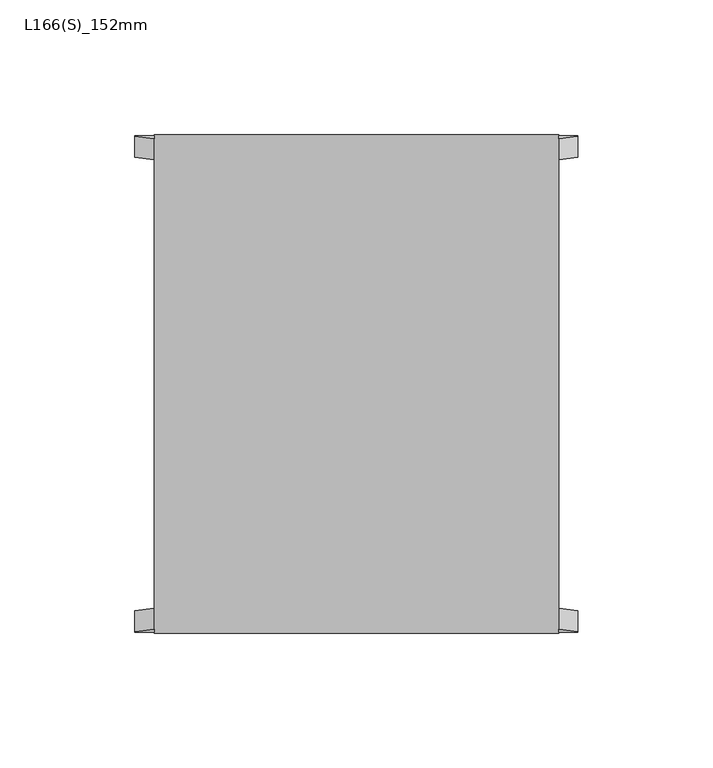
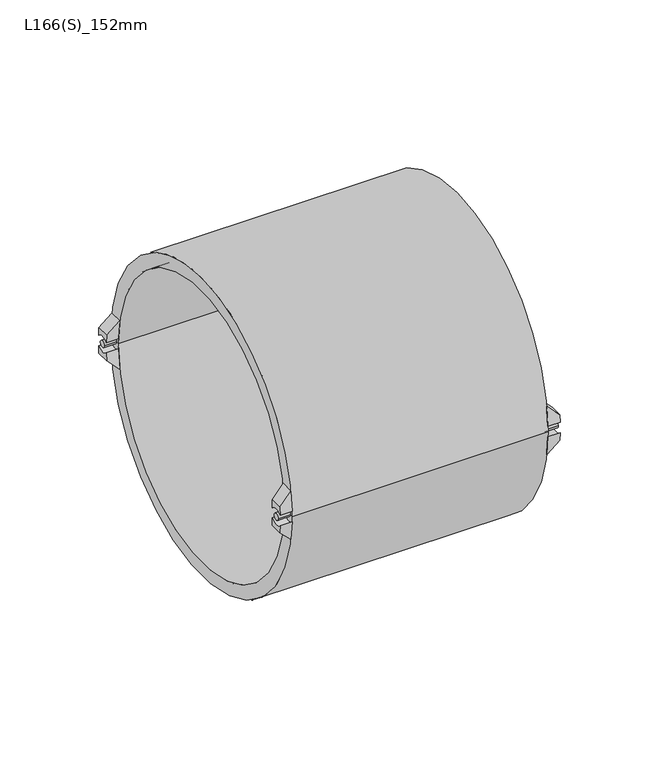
"""IFC4 building model written with IfcOpenShell, lengths in millimetres: pipe fitting geometry, Durapipe_PipeFitting_VulcatheneEnfusion_SlipCoupling_L16S : L166(S)_152mm."""

from ifc_helpers import new_model, si_unit, point, frame, frame_2d, origin, place, context, project, spatial, polyline, circle_curve, ellipse_curve, trimmed, segment, composite_curve, outline, extrude, source, transform, mapped, element, save
from ifc_brep_helpers import plane_surface, cylinder_surface, revolved_surface, advanced_brep


def l166_s_152mm_c7d2f9af(model_context):
    return source(origin(), model_context, "Body", "SolidModel", [
        advanced_brep(
        [(-82.1, -84.3923698, 3.1193631), (-82.1, -92.0923698, 3.2585168), (-82.1, -91.8072922, 7.94), (-82.1, -84.0759115, 7.94), (-75.0, -90.9209684, 15.0), (-75.0, -92.0923698, 3.2585168), (-75.0, -84.3923698, 3.1193631), (-75.0, -83.1071748, 15.0)],
        [
            (0, 1, circle_curve(frame((-82.1, -88.3, 0.0), z_axis=(1.0, 0.0, 0.0), x_axis=(0.0, 1.0, 0.0)), 5.0)),
            (1, 2, circle_curve(frame((-82.1, 0.0, 0.0), z_axis=(-1.0, 0.0, 0.0), x_axis=(0.0, 1.0, 0.0)), 92.15)),
            (2, 3),
            (3, 0, circle_curve(frame((-82.1, 0.0, 0.0), z_axis=(1.0, 0.0, 0.0), x_axis=(0.0, 1.0, 0.0)), 84.45)),
            (4, 5, circle_curve(frame((-75.0, 0.0, 0.0), z_axis=(1.0, 0.0, 0.0), x_axis=(0.0, 1.0, 0.0)), 92.15)),
            (5, 6, circle_curve(frame((-75.0, -88.3, 0.0), z_axis=(-1.0, 0.0, 0.0), x_axis=(0.0, 1.0, 0.0)), 5.0)),
            (6, 7, circle_curve(frame((-75.0, 0.0, 0.0), z_axis=(-1.0, 0.0, 0.0), x_axis=(0.0, 1.0, 0.0)), 84.45)),
            (7, 4),
            (6, 0),
            (3, 7, ellipse_curve(frame((-90.0849858, 0.0, 0.0), z_axis=(-0.7051064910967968, 0.0, 0.7091014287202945), x_axis=(0.7091014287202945, 0.0, 0.7051064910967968)), 119.7691428, 84.45)),
            (4, 2, ellipse_curve(frame((-90.0849858, 0.0, 0.0), z_axis=(0.7051064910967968, 0.0, -0.7091014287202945), x_axis=(-0.7091014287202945, 0.0, -0.7051064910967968)), 130.6894791, 92.15)),
            (1, 5),
        ],
        [
            plane_surface(frame((-82.1, -90.9209684, 15.0), z_axis=(-1.0, 0.0, 0.0), x_axis=(0.0, 1.0, 0.0))),
            plane_surface(frame((-75.0, -90.9209684, 15.0), z_axis=(1.0, 0.0, 0.0), x_axis=(0.0, -1.0, 0.0))),
            revolved_surface(polyline([(-5.156515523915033, 84.45, 0.0), (-175.01345607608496, 84.45, 0.0)]), (-75.0, 0.0, 0.0), (1.0, 0.0, 0.0)),
            cylinder_surface(frame((-75.0, 0.0, 0.0), z_axis=(-1.0, 0.0, 0.0), x_axis=(0.0, 1.0, 0.0)), 92.15),
            revolved_surface(polyline([(-82.1, -83.3, 0.0), (-75.0, -83.3, 0.0)]), (-75.0, -88.3, 0.0), (-1.0, 0.0, 0.0)),
            plane_surface(frame((-75.0, 92.15, 15.0), z_axis=(-0.7051064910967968, 0.0, 0.7091014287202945), x_axis=(0.0, -1.0, 0.0))),
        ],
        [
            (0, [[1, 2, 3, 4]]),
            (1, [[5, 6, 7, 8]]),
            (2, [[-7, 9, -4, 10]]),
            (3, [[-5, 11, -2, 12]]),
            (4, [[-1, -9, -6, -12]]),
            (5, [[-3, -11, -8, -10]]),
        ],
    ),
        advanced_brep(
        [(-82.1, -92.0923698, -3.2585168), (-82.1, -84.3923698, -3.1193631), (-82.1, -84.0759115, -7.94), (-82.1, -91.8072922, -7.94), (-75.0, -92.0923698, -3.2585168), (-75.0, -90.9209684, -15.0), (-75.0, -83.1071748, -15.0), (-75.0, -84.3923698, -3.1193631)],
        [
            (0, 1, circle_curve(frame((-82.1, -88.3, 0.0), z_axis=(1.0, 0.0, 0.0), x_axis=(0.0, 1.0, 0.0)), 5.0)),
            (1, 2, circle_curve(frame((-82.1, 0.0, 0.0), z_axis=(1.0, 0.0, 0.0), x_axis=(0.0, 1.0, 0.0)), 84.45)),
            (2, 3),
            (3, 0, circle_curve(frame((-82.1, 0.0, 0.0), z_axis=(-1.0, 0.0, 0.0), x_axis=(0.0, 1.0, 0.0)), 92.15)),
            (4, 5, circle_curve(frame((-75.0, 0.0, 0.0), z_axis=(1.0, 0.0, 0.0), x_axis=(0.0, 1.0, 0.0)), 92.15)),
            (5, 6),
            (6, 7, circle_curve(frame((-75.0, 0.0, 0.0), z_axis=(-1.0, 0.0, 0.0), x_axis=(0.0, 1.0, 0.0)), 84.45)),
            (7, 4, circle_curve(frame((-75.0, -88.3, 0.0), z_axis=(-1.0, 0.0, 0.0), x_axis=(0.0, 1.0, 0.0)), 5.0)),
            (6, 2, ellipse_curve(frame((-90.0849858, 0.0, 0.0), z_axis=(-0.7051064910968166, 0.0, -0.7091014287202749), x_axis=(0.7091014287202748, 0.0, -0.7051064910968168)), 119.7691428, 84.45)),
            (1, 7),
            (4, 0),
            (3, 5, ellipse_curve(frame((-90.0849858, 0.0, 0.0), z_axis=(0.7051064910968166, 0.0, 0.7091014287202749), x_axis=(-0.7091014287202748, 0.0, 0.7051064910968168)), 130.6894791, 92.15)),
        ],
        [
            plane_surface(frame((-82.1, -90.9209684, 15.0), z_axis=(-1.0, 0.0, 0.0), x_axis=(0.0, 1.0, 0.0))),
            plane_surface(frame((-75.0, -90.9209684, 15.0), z_axis=(1.0, 0.0, 0.0), x_axis=(0.0, -1.0, 0.0))),
            revolved_surface(polyline([(-5.156515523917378, 84.45, 0.0), (-175.0134560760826, 84.45, 0.0)]), (-75.0, 0.0, 0.0), (1.0, 0.0, 0.0)),
            cylinder_surface(frame((-75.0, 0.0, 0.0), z_axis=(-1.0, 0.0, 0.0), x_axis=(0.0, 1.0, 0.0)), 92.15),
            revolved_surface(polyline([(-82.1, -83.3, 0.0), (-75.0, -83.3, 0.0)]), (-75.0, -88.3, 0.0), (-1.0, 0.0, 0.0)),
            plane_surface(frame((-82.1, 92.15, -7.94), z_axis=(-0.7051064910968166, 0.0, -0.7091014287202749), x_axis=(0.0, -1.0, 0.0))),
        ],
        [
            (0, [[1, 2, 3, 4]]),
            (1, [[5, 6, 7, 8]]),
            (2, [[-7, 9, -2, 10]]),
            (3, [[-5, 11, -4, 12]]),
            (4, [[-1, -11, -8, -10]]),
            (5, [[-3, -9, -6, -12]]),
        ],
    ),
        advanced_brep(
        [(-82.1, 92.0923698, 3.2585168), (-82.1, 84.3923698, 3.1193631), (-82.1, 84.0759115, 7.94), (-82.1, 91.8072922, 7.94), (-75.0, 92.0923698, 3.2585168), (-75.0, 90.9209684, 15.0), (-75.0, 83.1071748, 15.0), (-75.0, 84.3923698, 3.1193631)],
        [
            (0, 1, circle_curve(frame((-82.1, 88.3, 0.0), z_axis=(1.0, 0.0, 0.0), x_axis=(0.0, 1.0, 0.0)), 5.0)),
            (1, 2, circle_curve(frame((-82.1, 0.0, 0.0), z_axis=(1.0, 0.0, 0.0), x_axis=(0.0, 1.0, 0.0)), 84.45)),
            (2, 3),
            (3, 0, circle_curve(frame((-82.1, 0.0, 0.0), z_axis=(-1.0, 0.0, 0.0), x_axis=(0.0, 1.0, 0.0)), 92.15)),
            (4, 5, circle_curve(frame((-75.0, 0.0, 0.0), z_axis=(1.0, 0.0, 0.0), x_axis=(0.0, 1.0, 0.0)), 92.15)),
            (5, 6),
            (6, 7, circle_curve(frame((-75.0, 0.0, 0.0), z_axis=(-1.0, 0.0, 0.0), x_axis=(0.0, 1.0, 0.0)), 84.45)),
            (7, 4, circle_curve(frame((-75.0, 88.3, 0.0), z_axis=(-1.0, 0.0, 0.0), x_axis=(0.0, 1.0, 0.0)), 5.0)),
            (6, 2, ellipse_curve(frame((-90.0849858, 0.0, 0.0), z_axis=(-0.7051064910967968, 0.0, 0.7091014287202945), x_axis=(0.7091014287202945, 0.0, 0.7051064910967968)), 119.7691428, 84.45)),
            (1, 7),
            (4, 0),
            (3, 5, ellipse_curve(frame((-90.0849858, 0.0, 0.0), z_axis=(0.7051064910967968, 0.0, -0.7091014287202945), x_axis=(-0.7091014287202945, 0.0, -0.7051064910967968)), 130.6894791, 92.15)),
        ],
        [
            plane_surface(frame((-82.1, -90.9209684, 15.0), z_axis=(-1.0, 0.0, 0.0), x_axis=(0.0, 1.0, 0.0))),
            plane_surface(frame((-75.0, -90.9209684, 15.0), z_axis=(1.0, 0.0, 0.0), x_axis=(0.0, -1.0, 0.0))),
            revolved_surface(polyline([(-5.156515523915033, 84.45, 0.0), (-175.01345607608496, 84.45, 0.0)]), (-75.0, 0.0, 0.0), (1.0, 0.0, 0.0)),
            cylinder_surface(frame((-75.0, 0.0, 0.0), z_axis=(-1.0, 0.0, 0.0), x_axis=(0.0, 1.0, 0.0)), 92.15),
            revolved_surface(polyline([(-82.1, 93.3, 0.0), (-75.0, 93.3, 0.0)]), (-75.0, 88.3, 0.0), (-1.0, 0.0, 0.0)),
            plane_surface(frame((-75.0, 92.15, 15.0), z_axis=(-0.7051064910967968, 0.0, 0.7091014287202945), x_axis=(0.0, -1.0, 0.0))),
        ],
        [
            (0, [[1, 2, 3, 4]]),
            (1, [[5, 6, 7, 8]]),
            (2, [[-7, 9, -2, 10]]),
            (3, [[-5, 11, -4, 12]]),
            (4, [[-1, -11, -8, -10]]),
            (5, [[-3, -9, -6, -12]]),
        ],
    ),
        advanced_brep(
        [(-82.1, 84.3923698, -3.1193631), (-82.1, 92.0923698, -3.2585168), (-82.1, 91.8072922, -7.94), (-82.1, 84.0759115, -7.94), (-75.0, 90.9209684, -15.0), (-75.0, 92.0923698, -3.2585168), (-75.0, 84.3923698, -3.1193631), (-75.0, 83.1071748, -15.0)],
        [
            (0, 1, circle_curve(frame((-82.1, 88.3, 0.0), z_axis=(1.0, 0.0, 0.0), x_axis=(0.0, 1.0, 0.0)), 5.0)),
            (1, 2, circle_curve(frame((-82.1, 0.0, 0.0), z_axis=(-1.0, 0.0, 0.0), x_axis=(0.0, 1.0, 0.0)), 92.15)),
            (2, 3),
            (3, 0, circle_curve(frame((-82.1, 0.0, 0.0), z_axis=(1.0, 0.0, 0.0), x_axis=(0.0, 1.0, 0.0)), 84.45)),
            (4, 5, circle_curve(frame((-75.0, 0.0, 0.0), z_axis=(1.0, 0.0, 0.0), x_axis=(0.0, 1.0, 0.0)), 92.15)),
            (5, 6, circle_curve(frame((-75.0, 88.3, 0.0), z_axis=(-1.0, 0.0, 0.0), x_axis=(0.0, 1.0, 0.0)), 5.0)),
            (6, 7, circle_curve(frame((-75.0, 0.0, 0.0), z_axis=(-1.0, 0.0, 0.0), x_axis=(0.0, 1.0, 0.0)), 84.45)),
            (7, 4),
            (6, 0),
            (3, 7, ellipse_curve(frame((-90.0849858, 0.0, 0.0), z_axis=(-0.7051064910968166, 0.0, -0.7091014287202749), x_axis=(0.7091014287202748, 0.0, -0.7051064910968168)), 119.7691428, 84.45)),
            (4, 2, ellipse_curve(frame((-90.0849858, 0.0, 0.0), z_axis=(0.7051064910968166, 0.0, 0.7091014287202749), x_axis=(-0.7091014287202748, 0.0, 0.7051064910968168)), 130.6894791, 92.15)),
            (1, 5),
        ],
        [
            plane_surface(frame((-82.1, -90.9209684, 15.0), z_axis=(-1.0, 0.0, 0.0), x_axis=(0.0, 1.0, 0.0))),
            plane_surface(frame((-75.0, -90.9209684, 15.0), z_axis=(1.0, 0.0, 0.0), x_axis=(0.0, -1.0, 0.0))),
            revolved_surface(polyline([(-5.156515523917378, 84.45, 0.0), (-175.0134560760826, 84.45, 0.0)]), (-75.0, 0.0, 0.0), (1.0, 0.0, 0.0)),
            cylinder_surface(frame((-75.0, 0.0, 0.0), z_axis=(-1.0, 0.0, 0.0), x_axis=(0.0, 1.0, 0.0)), 92.15),
            revolved_surface(polyline([(-82.1, 93.3, 0.0), (-75.0, 93.3, 0.0)]), (-75.0, 88.3, 0.0), (-1.0, 0.0, 0.0)),
            plane_surface(frame((-82.1, 92.15, -7.94), z_axis=(-0.7051064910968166, 0.0, -0.7091014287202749), x_axis=(0.0, -1.0, 0.0))),
        ],
        [
            (0, [[1, 2, 3, 4]]),
            (1, [[5, 6, 7, 8]]),
            (2, [[-7, 9, -4, 10]]),
            (3, [[-5, 11, -2, 12]]),
            (4, [[-1, -9, -6, -12]]),
            (5, [[-3, -11, -8, -10]]),
        ],
    ),
        extrude(outline(composite_curve([segment(trimmed(circle_curve(frame_2d((-88.3, 0.0)), 2.0), [point((-90.3, 0.0))], [point((-86.3, 0.0))], False, "CARTESIAN"), True, "CONTINUOUS"), segment(trimmed(circle_curve(frame_2d((-88.3, 0.0)), 2.0), [point((-86.3, 0.0))], [point((-90.3, 0.0))], False, "CARTESIAN"), True, "CONTINUOUS")], self_intersect=False)), frame((-82.1, 0.0, 0.0), z_axis=(1.0, 0.0, 0.0), x_axis=(0.0, 1.0, 0.0)), (0.0, 0.0, 1.0), 7.1),
        extrude(outline(composite_curve([segment(trimmed(circle_curve(frame_2d((88.3, 0.0)), 2.0), [point((86.3, 0.0))], [point((90.3, 0.0))], False, "CARTESIAN"), True, "CONTINUOUS"), segment(trimmed(circle_curve(frame_2d((88.3, 0.0)), 2.0), [point((90.3, 0.0))], [point((86.3, 0.0))], False, "CARTESIAN"), True, "CONTINUOUS")], self_intersect=False)), frame((-82.1, 0.0, 0.0), z_axis=(1.0, 0.0, 0.0), x_axis=(0.0, 1.0, 0.0)), (0.0, 0.0, 1.0), 7.1),
        advanced_brep(
        [(82.1, -84.3923698, -3.1193631), (82.1, -92.0923698, -3.2585168), (82.1, -91.8072922, -7.94), (82.1, -84.0759115, -7.94), (75.0, -90.9209684, -15.0), (75.0, -92.0923698, -3.2585168), (75.0, -84.3923698, -3.1193631), (75.0, -83.1071748, -15.0)],
        [
            (0, 1, circle_curve(frame((82.1, -88.3, 0.0), z_axis=(-1.0, 0.0, 0.0), x_axis=(0.0, 1.0, 0.0)), 5.0)),
            (1, 2, circle_curve(frame((82.1, 0.0, 0.0), z_axis=(1.0, 0.0, 0.0), x_axis=(0.0, 1.0, 0.0)), 92.15)),
            (2, 3),
            (3, 0, circle_curve(frame((82.1, 0.0, 0.0), z_axis=(-1.0, 0.0, 0.0), x_axis=(0.0, 1.0, 0.0)), 84.45)),
            (4, 5, circle_curve(frame((75.0, 0.0, 0.0), z_axis=(-1.0, 0.0, 0.0), x_axis=(0.0, 1.0, 0.0)), 92.15)),
            (5, 6, circle_curve(frame((75.0, -88.3, 0.0), z_axis=(1.0, 0.0, 0.0), x_axis=(0.0, 1.0, 0.0)), 5.0)),
            (6, 7, circle_curve(frame((75.0, 0.0, 0.0), z_axis=(1.0, 0.0, 0.0), x_axis=(0.0, 1.0, 0.0)), 84.45)),
            (7, 4),
            (6, 0),
            (3, 7, ellipse_curve(frame((90.0849858, 0.0, 0.0), z_axis=(0.7051064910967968, 0.0, -0.7091014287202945), x_axis=(-0.7091014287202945, 0.0, -0.7051064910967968)), 119.7691428, 84.45)),
            (4, 2, ellipse_curve(frame((90.0849858, 0.0, 0.0), z_axis=(-0.7051064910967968, 0.0, 0.7091014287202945), x_axis=(0.7091014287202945, 0.0, 0.7051064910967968)), 130.6894791, 92.15)),
            (1, 5),
        ],
        [
            plane_surface(frame((82.1, -90.9209684, -15.0), z_axis=(1.0, 0.0, 0.0), x_axis=(0.0, 1.0, 0.0))),
            plane_surface(frame((75.0, -90.9209684, -15.0), z_axis=(-1.0, 0.0, 0.0), x_axis=(0.0, -1.0, 0.0))),
            revolved_surface(polyline([(5.156515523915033, 84.45, 0.0), (175.01345607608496, 84.45, 0.0)]), (75.0, 0.0, 0.0), (-1.0, 0.0, 0.0)),
            cylinder_surface(frame((75.0, 0.0, 0.0), z_axis=(1.0, 0.0, 0.0), x_axis=(0.0, 1.0, 0.0)), 92.15),
            revolved_surface(polyline([(82.1, -83.3, 0.0), (75.0, -83.3, 0.0)]), (75.0, -88.3, 0.0), (1.0, 0.0, 0.0)),
            plane_surface(frame((75.0, 92.15, -15.0), z_axis=(0.7051064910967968, 0.0, -0.7091014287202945), x_axis=(0.0, -1.0, 0.0))),
        ],
        [
            (0, [[1, 2, 3, 4]]),
            (1, [[5, 6, 7, 8]]),
            (2, [[-7, 9, -4, 10]]),
            (3, [[-5, 11, -2, 12]]),
            (4, [[-1, -9, -6, -12]]),
            (5, [[-3, -11, -8, -10]]),
        ],
    ),
        advanced_brep(
        [(82.1, -92.0923698, 3.2585168), (82.1, -84.3923698, 3.1193631), (82.1, -84.0759115, 7.94), (82.1, -91.8072922, 7.94), (75.0, -92.0923698, 3.2585168), (75.0, -90.9209684, 15.0), (75.0, -83.1071748, 15.0), (75.0, -84.3923698, 3.1193631)],
        [
            (0, 1, circle_curve(frame((82.1, -88.3, 0.0), z_axis=(-1.0, 0.0, 0.0), x_axis=(0.0, 1.0, 0.0)), 5.0)),
            (1, 2, circle_curve(frame((82.1, 0.0, 0.0), z_axis=(-1.0, 0.0, 0.0), x_axis=(0.0, 1.0, 0.0)), 84.45)),
            (2, 3),
            (3, 0, circle_curve(frame((82.1, 0.0, 0.0), z_axis=(1.0, 0.0, 0.0), x_axis=(0.0, 1.0, 0.0)), 92.15)),
            (4, 5, circle_curve(frame((75.0, 0.0, 0.0), z_axis=(-1.0, 0.0, 0.0), x_axis=(0.0, 1.0, 0.0)), 92.15)),
            (5, 6),
            (6, 7, circle_curve(frame((75.0, 0.0, 0.0), z_axis=(1.0, 0.0, 0.0), x_axis=(0.0, 1.0, 0.0)), 84.45)),
            (7, 4, circle_curve(frame((75.0, -88.3, 0.0), z_axis=(1.0, 0.0, 0.0), x_axis=(0.0, 1.0, 0.0)), 5.0)),
            (6, 2, ellipse_curve(frame((90.0849858, 0.0, 0.0), z_axis=(0.7051064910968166, 0.0, 0.7091014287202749), x_axis=(-0.7091014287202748, 0.0, 0.7051064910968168)), 119.7691428, 84.45)),
            (1, 7),
            (4, 0),
            (3, 5, ellipse_curve(frame((90.0849858, 0.0, 0.0), z_axis=(-0.7051064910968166, 0.0, -0.7091014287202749), x_axis=(0.7091014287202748, 0.0, -0.7051064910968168)), 130.6894791, 92.15)),
        ],
        [
            plane_surface(frame((82.1, -90.9209684, -15.0), z_axis=(1.0, 0.0, 0.0), x_axis=(0.0, 1.0, 0.0))),
            plane_surface(frame((75.0, -90.9209684, -15.0), z_axis=(-1.0, 0.0, 0.0), x_axis=(0.0, -1.0, 0.0))),
            revolved_surface(polyline([(5.156515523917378, 84.45, 0.0), (175.0134560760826, 84.45, 0.0)]), (75.0, 0.0, 0.0), (-1.0, 0.0, 0.0)),
            cylinder_surface(frame((75.0, 0.0, 0.0), z_axis=(1.0, 0.0, 0.0), x_axis=(0.0, 1.0, 0.0)), 92.15),
            revolved_surface(polyline([(82.1, -83.3, 0.0), (75.0, -83.3, 0.0)]), (75.0, -88.3, 0.0), (1.0, 0.0, 0.0)),
            plane_surface(frame((82.1, 92.15, 7.94), z_axis=(0.7051064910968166, 0.0, 0.7091014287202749), x_axis=(0.0, -1.0, 0.0))),
        ],
        [
            (0, [[1, 2, 3, 4]]),
            (1, [[5, 6, 7, 8]]),
            (2, [[-7, 9, -2, 10]]),
            (3, [[-5, 11, -4, 12]]),
            (4, [[-1, -11, -8, -10]]),
            (5, [[-3, -9, -6, -12]]),
        ],
    ),
        advanced_brep(
        [(82.1, 92.0923698, -3.2585168), (82.1, 84.3923698, -3.1193631), (82.1, 84.0759115, -7.94), (82.1, 91.8072922, -7.94), (75.0, 92.0923698, -3.2585168), (75.0, 90.9209684, -15.0), (75.0, 83.1071748, -15.0), (75.0, 84.3923698, -3.1193631)],
        [
            (0, 1, circle_curve(frame((82.1, 88.3, 0.0), z_axis=(-1.0, 0.0, 0.0), x_axis=(0.0, 1.0, 0.0)), 5.0)),
            (1, 2, circle_curve(frame((82.1, 0.0, 0.0), z_axis=(-1.0, 0.0, 0.0), x_axis=(0.0, 1.0, 0.0)), 84.45)),
            (2, 3),
            (3, 0, circle_curve(frame((82.1, 0.0, 0.0), z_axis=(1.0, 0.0, 0.0), x_axis=(0.0, 1.0, 0.0)), 92.15)),
            (4, 5, circle_curve(frame((75.0, 0.0, 0.0), z_axis=(-1.0, 0.0, 0.0), x_axis=(0.0, 1.0, 0.0)), 92.15)),
            (5, 6),
            (6, 7, circle_curve(frame((75.0, 0.0, 0.0), z_axis=(1.0, 0.0, 0.0), x_axis=(0.0, 1.0, 0.0)), 84.45)),
            (7, 4, circle_curve(frame((75.0, 88.3, 0.0), z_axis=(1.0, 0.0, 0.0), x_axis=(0.0, 1.0, 0.0)), 5.0)),
            (6, 2, ellipse_curve(frame((90.0849858, 0.0, 0.0), z_axis=(0.7051064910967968, 0.0, -0.7091014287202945), x_axis=(-0.7091014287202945, 0.0, -0.7051064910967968)), 119.7691428, 84.45)),
            (1, 7),
            (4, 0),
            (3, 5, ellipse_curve(frame((90.0849858, 0.0, 0.0), z_axis=(-0.7051064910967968, 0.0, 0.7091014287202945), x_axis=(0.7091014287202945, 0.0, 0.7051064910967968)), 130.6894791, 92.15)),
        ],
        [
            plane_surface(frame((82.1, -90.9209684, -15.0), z_axis=(1.0, 0.0, 0.0), x_axis=(0.0, 1.0, 0.0))),
            plane_surface(frame((75.0, -90.9209684, -15.0), z_axis=(-1.0, 0.0, 0.0), x_axis=(0.0, -1.0, 0.0))),
            revolved_surface(polyline([(5.156515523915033, 84.45, 0.0), (175.01345607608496, 84.45, 0.0)]), (75.0, 0.0, 0.0), (-1.0, 0.0, 0.0)),
            cylinder_surface(frame((75.0, 0.0, 0.0), z_axis=(1.0, 0.0, 0.0), x_axis=(0.0, 1.0, 0.0)), 92.15),
            revolved_surface(polyline([(82.1, 93.3, 0.0), (75.0, 93.3, 0.0)]), (75.0, 88.3, 0.0), (1.0, 0.0, 0.0)),
            plane_surface(frame((75.0, 92.15, -15.0), z_axis=(0.7051064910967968, 0.0, -0.7091014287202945), x_axis=(0.0, -1.0, 0.0))),
        ],
        [
            (0, [[1, 2, 3, 4]]),
            (1, [[5, 6, 7, 8]]),
            (2, [[-7, 9, -2, 10]]),
            (3, [[-5, 11, -4, 12]]),
            (4, [[-1, -11, -8, -10]]),
            (5, [[-3, -9, -6, -12]]),
        ],
    ),
        advanced_brep(
        [(82.1, 84.3923698, 3.1193631), (82.1, 92.0923698, 3.2585168), (82.1, 91.8072922, 7.94), (82.1, 84.0759115, 7.94), (75.0, 90.9209684, 15.0), (75.0, 92.0923698, 3.2585168), (75.0, 84.3923698, 3.1193631), (75.0, 83.1071748, 15.0)],
        [
            (0, 1, circle_curve(frame((82.1, 88.3, 0.0), z_axis=(-1.0, 0.0, 0.0), x_axis=(0.0, 1.0, 0.0)), 5.0)),
            (1, 2, circle_curve(frame((82.1, 0.0, 0.0), z_axis=(1.0, 0.0, 0.0), x_axis=(0.0, 1.0, 0.0)), 92.15)),
            (2, 3),
            (3, 0, circle_curve(frame((82.1, 0.0, 0.0), z_axis=(-1.0, 0.0, 0.0), x_axis=(0.0, 1.0, 0.0)), 84.45)),
            (4, 5, circle_curve(frame((75.0, 0.0, 0.0), z_axis=(-1.0, 0.0, 0.0), x_axis=(0.0, 1.0, 0.0)), 92.15)),
            (5, 6, circle_curve(frame((75.0, 88.3, 0.0), z_axis=(1.0, 0.0, 0.0), x_axis=(0.0, 1.0, 0.0)), 5.0)),
            (6, 7, circle_curve(frame((75.0, 0.0, 0.0), z_axis=(1.0, 0.0, 0.0), x_axis=(0.0, 1.0, 0.0)), 84.45)),
            (7, 4),
            (6, 0),
            (3, 7, ellipse_curve(frame((90.0849858, 0.0, 0.0), z_axis=(0.7051064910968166, 0.0, 0.7091014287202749), x_axis=(-0.7091014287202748, 0.0, 0.7051064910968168)), 119.7691428, 84.45)),
            (4, 2, ellipse_curve(frame((90.0849858, 0.0, 0.0), z_axis=(-0.7051064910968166, 0.0, -0.7091014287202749), x_axis=(0.7091014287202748, 0.0, -0.7051064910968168)), 130.6894791, 92.15)),
            (1, 5),
        ],
        [
            plane_surface(frame((82.1, -90.9209684, -15.0), z_axis=(1.0, 0.0, 0.0), x_axis=(0.0, 1.0, 0.0))),
            plane_surface(frame((75.0, -90.9209684, -15.0), z_axis=(-1.0, 0.0, 0.0), x_axis=(0.0, -1.0, 0.0))),
            revolved_surface(polyline([(5.156515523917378, 84.45, 0.0), (175.0134560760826, 84.45, 0.0)]), (75.0, 0.0, 0.0), (-1.0, 0.0, 0.0)),
            cylinder_surface(frame((75.0, 0.0, 0.0), z_axis=(1.0, 0.0, 0.0), x_axis=(0.0, 1.0, 0.0)), 92.15),
            revolved_surface(polyline([(82.1, 93.3, 0.0), (75.0, 93.3, 0.0)]), (75.0, 88.3, 0.0), (1.0, 0.0, 0.0)),
            plane_surface(frame((82.1, 92.15, 7.94), z_axis=(0.7051064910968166, 0.0, 0.7091014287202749), x_axis=(0.0, -1.0, 0.0))),
        ],
        [
            (0, [[1, 2, 3, 4]]),
            (1, [[5, 6, 7, 8]]),
            (2, [[-7, 9, -4, 10]]),
            (3, [[-5, 11, -2, 12]]),
            (4, [[-1, -9, -6, -12]]),
            (5, [[-3, -11, -8, -10]]),
        ],
    ),
        extrude(outline(composite_curve([segment(trimmed(circle_curve(frame_2d((-88.3, 0.0)), 2.0), [point((-90.3, 0.0))], [point((-86.3, 0.0))], False, "CARTESIAN"), True, "CONTINUOUS"), segment(trimmed(circle_curve(frame_2d((-88.3, 0.0)), 2.0), [point((-86.3, 0.0))], [point((-90.3, 0.0))], False, "CARTESIAN"), True, "CONTINUOUS")], self_intersect=False)), frame((75.0, 0.0, 0.0), z_axis=(1.0, 0.0, 0.0), x_axis=(0.0, 1.0, 0.0)), (0.0, 0.0, 1.0), 7.1),
        extrude(outline(composite_curve([segment(trimmed(circle_curve(frame_2d((88.3, 0.0)), 2.0), [point((86.3, 0.0))], [point((90.3, 0.0))], False, "CARTESIAN"), True, "CONTINUOUS"), segment(trimmed(circle_curve(frame_2d((88.3, 0.0)), 2.0), [point((90.3, 0.0))], [point((86.3, 0.0))], False, "CARTESIAN"), True, "CONTINUOUS")], self_intersect=False)), frame((75.0, 0.0, 0.0), z_axis=(1.0, 0.0, 0.0), x_axis=(0.0, 1.0, 0.0)), (0.0, 0.0, 1.0), 7.1),
        advanced_brep(
        [(75.0, -92.3, 0.0), (75.0, 92.3, 0.0), (75.0, 84.3, 0.0), (75.0, -84.3, 0.0), (-75.0, -92.3, 0.0), (-75.0, 92.3, 0.0), (-75.0, -84.3, 0.0), (-75.0, 84.3, 0.0)],
        [
            (0, 1, circle_curve(frame((75.0, 0.0, 0.0), z_axis=(1.0, 0.0, 0.0), x_axis=(0.0, 1.0, 0.0)), 92.3)),
            (1, 2),
            (2, 3, circle_curve(frame((75.0, 0.0, 0.0), z_axis=(-1.0, 0.0, 0.0), x_axis=(0.0, 1.0, 0.0)), 84.3)),
            (3, 0),
            (1, 0, circle_curve(frame((75.0, 0.0, 0.0), z_axis=(1.0, 0.0, 0.0), x_axis=(0.0, 1.0, 0.0)), 92.3)),
            (3, 2, circle_curve(frame((75.0, 0.0, 0.0), z_axis=(-1.0, 0.0, 0.0), x_axis=(0.0, 1.0, 0.0)), 84.3)),
            (4, 5, circle_curve(frame((-75.0, 0.0, 0.0), z_axis=(1.0, 0.0, 0.0), x_axis=(0.0, 1.0, 0.0)), 92.3)),
            (5, 1),
            (0, 4),
            (5, 4, circle_curve(frame((-75.0, 0.0, 0.0), z_axis=(1.0, 0.0, 0.0), x_axis=(0.0, 1.0, 0.0)), 92.3)),
            (6, 7, circle_curve(frame((-75.0, 0.0, 0.0), z_axis=(1.0, 0.0, 0.0), x_axis=(0.0, 1.0, 0.0)), 84.3)),
            (7, 5),
            (4, 6),
            (7, 6, circle_curve(frame((-75.0, 0.0, 0.0), z_axis=(1.0, 0.0, 0.0), x_axis=(0.0, 1.0, 0.0)), 84.3)),
            (2, 7),
            (6, 3),
        ],
        [
            plane_surface(frame((75.0, 0.0, 0.0), z_axis=(1.0, 0.0, 0.0), x_axis=(0.0, 1.0, 0.0))),
            cylinder_surface(frame((1571.2518184, 0.0, 0.0), z_axis=(-1.0, 0.0, 0.0), x_axis=(0.0, 1.0, 0.0)), 92.3),
            plane_surface(frame((-75.0, 0.0, 0.0), z_axis=(-1.0, 0.0, 0.0), x_axis=(0.0, 1.0, 0.0))),
            revolved_surface(polyline([(-75.0, 84.3, 0.0), (75.0, 84.3, 0.0)]), (1571.2518184, 0.0, 0.0), (-1.0, 0.0, 0.0)),
        ],
        [
            (0, [[1, 2, 3, 4]]),
            (0, [[5, -4, 6, -2]]),
            (1, [[7, 8, -1, 9]]),
            (1, [[10, -9, -5, -8]]),
            (2, [[11, 12, -7, 13]]),
            (2, [[14, -13, -10, -12]]),
            (3, [[-3, 15, -11, 16]]),
            (3, [[-6, -16, -14, -15]]),
        ],
    ),
    ])


if __name__ == "__main__":
    model = new_model("IFC4")
    model_context = context("Model", 3, world=origin())
    ifc_project = project(units=[si_unit("LENGTHUNIT", "METRE", prefix="MILLI")], contexts=[model_context])
    site = spatial("IfcSite", under=ifc_project)
    building = spatial("IfcBuilding", under=site)
    placement = place(None, origin())
    l166_s_152mm_shape = l166_s_152mm_c7d2f9af(model_context)
    element("IfcPipeFitting", 1, ObjectType="Durapipe_PipeFitting_VulcatheneEnfusion_SlipCoupling_L16S : L166(S)_152mm", at=placement, inside=building, context=model_context, shape_type="MappedRepresentation", body=[
        mapped(l166_s_152mm_shape, transform((0.0, 0.0, 0.0), x_axis=(1.0, 0.0, 0.0), y_axis=(0.0, 1.0, 0.0), z_axis=(0.0, 0.0, 1.0))),
    ])
    save(model, "model.ifc")
